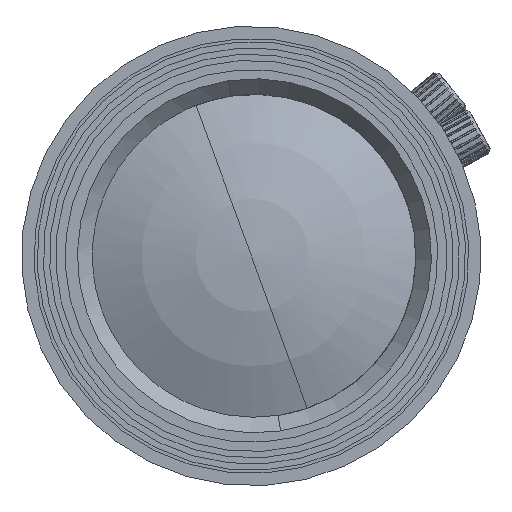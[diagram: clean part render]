
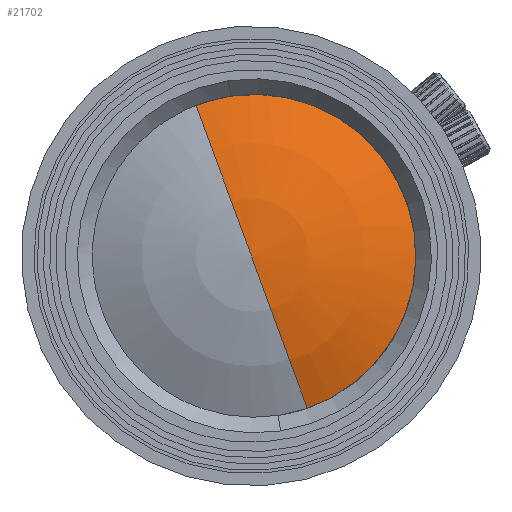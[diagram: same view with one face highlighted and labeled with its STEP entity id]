
A CAD part, left-side view. The second image highlights one B-rep face of the part: STEP entity #21702.
In plain terms, the highlighted spherical face has radius 30.475 mm.
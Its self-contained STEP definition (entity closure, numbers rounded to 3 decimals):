
#280 = DIRECTION ( 'NONE',  ( 0., -0.344, -0.939 ) ) ;
#893 = CARTESIAN_POINT ( 'NONE',  ( -43.593, 0., 0. ) ) ;
#919 = CARTESIAN_POINT ( 'NONE',  ( -43.593, 0., 0. ) ) ;
#970 = ORIENTED_EDGE ( 'NONE', *, *, #13007, .T. ) ;
#1292 = CARTESIAN_POINT ( 'NONE',  ( -43.642, -6.078, 11.627 ) ) ;
#1520 = CARTESIAN_POINT ( 'NONE',  ( -43.686, -1.096, 12.983 ) ) ;
#1742 = CARTESIAN_POINT ( 'NONE',  ( -43.653, -4.805, 12.184 ) ) ;
#2142 = CARTESIAN_POINT ( 'NONE',  ( -43.485, 0., 0. ) ) ;
#2190 = CARTESIAN_POINT ( 'NONE',  ( -43.593, -12., 5.543 ) ) ;
#2743 = FACE_OUTER_BOUND ( 'NONE', #21254, .T. ) ;
#2975 = VERTEX_POINT ( 'NONE', #17679 ) ;
#4414 = CARTESIAN_POINT ( 'NONE',  ( -43.593, -12., 5.543 ) ) ;
#4430 = DIRECTION ( 'NONE',  ( 0., 1., 0. ) ) ;
#4558 = CIRCLE ( 'NONE', #37855, 13.219 ) ;
#4832 = CARTESIAN_POINT ( 'NONE',  ( -43.676, -2.136, 12.872 ) ) ;
#5152 = EDGE_CURVE ( 'NONE', #6072, #29815, #37585, .T. ) ;
#5235 = DIRECTION ( 'NONE',  ( -1., 0., 0. ) ) ;
#5280 = CARTESIAN_POINT ( 'NONE',  ( -43.62, -8.664, 9.914 ) ) ;
#5398 = CARTESIAN_POINT ( 'NONE',  ( -16.134, 0., 0. ) ) ;
#6072 = VERTEX_POINT ( 'NONE', #36649 ) ;
#6171 = ORIENTED_EDGE ( 'NONE', *, *, #42916, .T. ) ;
#6248 = VERTEX_POINT ( 'NONE', #38176 ) ;
#7997 = CIRCLE ( 'NONE', #43360, 13.439 ) ;
#8012 = DIRECTION ( 'NONE',  ( -1., 0., 0. ) ) ;
#8424 = EDGE_CURVE ( 'NONE', #38591, #2975, #25662, .T. ) ;
#9146 = CARTESIAN_POINT ( 'NONE',  ( -43.719, 2.625, 12.722 ) ) ;
#9296 = CARTESIAN_POINT ( 'NONE',  ( -43.636, -7.969, -10.444 ) ) ;
#11516 = CARTESIAN_POINT ( 'NONE',  ( -43.668, -3.161, 12.693 ) ) ;
#11733 = CARTESIAN_POINT ( 'NONE',  ( -43.689, -0.749, 13.001 ) ) ;
#11892 = VERTEX_POINT ( 'NONE', #36837 ) ;
#11963 = CARTESIAN_POINT ( 'NONE',  ( -43.616, -10.118, -8.445 ) ) ;
#12370 = ORIENTED_EDGE ( 'NONE', *, *, #5152, .T. ) ;
#12713 = CARTESIAN_POINT ( 'NONE',  ( -43.735, 4.449, 12.129 ) ) ;
#12864 = CARTESIAN_POINT ( 'NONE',  ( -43.593, -12.536, -4.194 ) ) ;
#13007 = EDGE_CURVE ( 'NONE', #2975, #6248, #40080, .T. ) ;
#13659 = CARTESIAN_POINT ( 'NONE',  ( -16.134, 0., 0. ) ) ;
#14246 = DIRECTION ( 'NONE',  ( 0., -0.939, 0.344 ) ) ;
#14547 = CIRCLE ( 'NONE', #28652, 30.475 ) ;
#14835 = CARTESIAN_POINT ( 'NONE',  ( -43.645, -5.763, 11.78 ) ) ;
#15264 = CARTESIAN_POINT ( 'NONE',  ( -43.698, 0.289, 13.013 ) ) ;
#15709 = CARTESIAN_POINT ( 'NONE',  ( -43.598, -11.36, 6.775 ) ) ;
#16947 = ORIENTED_EDGE ( 'NONE', *, *, #8424, .T. ) ;
#17438 = AXIS2_PLACEMENT_3D ( 'NONE', #13659, #31354, #27148 ) ;
#17679 = CARTESIAN_POINT ( 'NONE',  ( -43.71, 1.672, 12.864 ) ) ;
#18170 = CARTESIAN_POINT ( 'NONE',  ( -43.604, -10.582, 7.912 ) ) ;
#18843 = CARTESIAN_POINT ( 'NONE',  ( -43.596, -12.215, -5.132 ) ) ;
#18940 = DIRECTION ( 'NONE',  ( 1., 0., 0. ) ) ;
#19502 = CARTESIAN_POINT ( 'NONE',  ( -43.64, -7.566, -10.731 ) ) ;
#19720 = CARTESIAN_POINT ( 'NONE',  ( -43.61, -10.733, -7.669 ) ) ;
#21241 = AXIS2_PLACEMENT_3D ( 'NONE', #919, #8012, #35046 ) ;
#21254 = EDGE_LOOP ( 'NONE', ( #6171, #12370, #35307, #25758, #23861, #36205, #26828, #16947, #970 ) ) ;
#21693 = CARTESIAN_POINT ( 'NONE',  ( -43.629, -7.577, 10.761 ) ) ;
#21702 = ADVANCED_FACE ( 'NONE', ( #2743 ), #42619, .T. ) ;
#22343 = CARTESIAN_POINT ( 'NONE',  ( -43.485, 4.628, 12.617 ) ) ;
#22373 = CARTESIAN_POINT ( 'NONE',  ( -43.608, -11.017, -7.265 ) ) ;
#22818 = CARTESIAN_POINT ( 'NONE',  ( -43.626, -9.099, -9.506 ) ) ;
#23372 = AXIS2_PLACEMENT_3D ( 'NONE', #5398, #18940, #30655 ) ;
#23861 = ORIENTED_EDGE ( 'NONE', *, *, #24457, .T. ) ;
#24457 = EDGE_CURVE ( 'NONE', #11892, #26313, #7997, .T. ) ;
#25229 = CARTESIAN_POINT ( 'NONE',  ( -43.704, 0.981, 12.967 ) ) ;
#25286 = DIRECTION ( 'NONE',  ( 0., 0.939, -0.344 ) ) ;
#25337 = CARTESIAN_POINT ( 'NONE',  ( -43.593, 4.552, 12.41 ) ) ;
#25662 = B_SPLINE_CURVE_WITH_KNOTS ( 'NONE', 3,
 ( #2190, #35199, #15709, #18170, #38956, #42056, #31666, #5280, #34990, #21693, #28545, #1292, #14835, #28332, #1742, #41843, #11516, #4832, #31887, #1520, #11733, #15264, #25229, #38734 ),
 .UNSPECIFIED., .F., .F.,
 ( 4, 2, 2, 2, 2, 2, 2, 2, 2, 2, 2, 4 ),
 ( 0., 0.002, 0.004, 0.005, 0.006, 0.008, 0.009, 0.01, 0.012, 0.013, 0.015, 0.017 ),
 .UNSPECIFIED. ) ;
#25758 = ORIENTED_EDGE ( 'NONE', *, *, #33197, .F. ) ;
#26137 = CARTESIAN_POINT ( 'NONE',  ( -43.659, -5.424, -11.942 ) ) ;
#26167 = CIRCLE ( 'NONE', #21241, 13.219 ) ;
#26313 = VERTEX_POINT ( 'NONE', #22343 ) ;
#26743 = CARTESIAN_POINT ( 'NONE',  ( -43.593, -12.536, -4.194 ) ) ;
#26828 = ORIENTED_EDGE ( 'NONE', *, *, #40523, .F. ) ;
#26953 = VERTEX_POINT ( 'NONE', #41291 ) ;
#27148 = DIRECTION ( 'NONE',  ( 0., -0.344, -0.939 ) ) ;
#27735 = CARTESIAN_POINT ( 'NONE',  ( -16.134, 0., 0. ) ) ;
#28050 = VERTEX_POINT ( 'NONE', #25337 ) ;
#28332 = CARTESIAN_POINT ( 'NONE',  ( -43.65, -5.127, 12.058 ) ) ;
#28545 = CARTESIAN_POINT ( 'NONE',  ( -43.634, -6.997, 11.134 ) ) ;
#28652 = AXIS2_PLACEMENT_3D ( 'NONE', #38792, #25286, #42110 ) ;
#29672 = CARTESIAN_POINT ( 'NONE',  ( -43.6, -11.794, -6.016 ) ) ;
#29815 = VERTEX_POINT ( 'NONE', #26743 ) ;
#30655 = DIRECTION ( 'NONE',  ( 0., -0.344, -0.939 ) ) ;
#31094 = AXIS2_PLACEMENT_3D ( 'NONE', #27735, #14246, #280 ) ;
#31354 = DIRECTION ( 'NONE',  ( 0., -0.939, 0.344 ) ) ;
#31666 = CARTESIAN_POINT ( 'NONE',  ( -43.616, -9.179, 9.451 ) ) ;
#31887 = CARTESIAN_POINT ( 'NONE',  ( -43.68, -1.789, 12.918 ) ) ;
#33197 = EDGE_CURVE ( 'NONE', #11892, #26953, #14547, .T. ) ;
#34331 = EDGE_CURVE ( 'NONE', #26953, #29815, #4558, .T. ) ;
#34990 = CARTESIAN_POINT ( 'NONE',  ( -43.622, -8.398, 10.134 ) ) ;
#35046 = DIRECTION ( 'NONE',  ( 0., 1., 0. ) ) ;
#35090 = CIRCLE ( 'NONE', #17438, 30.475 ) ;
#35199 = CARTESIAN_POINT ( 'NONE',  ( -43.595, -11.703, 6.175 ) ) ;
#35307 = ORIENTED_EDGE ( 'NONE', *, *, #34331, .F. ) ;
#35876 = CARTESIAN_POINT ( 'NONE',  ( -43.629, -8.735, -9.832 ) ) ;
#35948 = CARTESIAN_POINT ( 'NONE',  ( -43.71, 1.672, 12.864 ) ) ;
#36205 = ORIENTED_EDGE ( 'NONE', *, *, #36987, .T. ) ;
#36397 = CARTESIAN_POINT ( 'NONE',  ( -43.727, 3.551, 12.477 ) ) ;
#36649 = CARTESIAN_POINT ( 'NONE',  ( -43.668, -4.498, -12.263 ) ) ;
#36837 = CARTESIAN_POINT ( 'NONE',  ( -43.485, -4.628, -12.617 ) ) ;
#36987 = EDGE_CURVE ( 'NONE', #26313, #28050, #35090, .T. ) ;
#37585 = B_SPLINE_CURVE_WITH_KNOTS ( 'NONE', 3,
 ( #42957, #26137, #39639, #19502, #9296, #35876, #22818, #43186, #11963, #19720, #22373, #29672, #18843, #12864 ),
 .UNSPECIFIED., .F., .F.,
 ( 4, 2, 2, 2, 2, 2, 4 ),
 ( 0.001, 0.004, 0.006, 0.007, 0.009, 0.01, 0.013 ),
 .UNSPECIFIED. ) ;
#37855 = AXIS2_PLACEMENT_3D ( 'NONE', #893, #37899, #4430 ) ;
#37899 = DIRECTION ( 'NONE',  ( -1., 0., 0. ) ) ;
#38176 = CARTESIAN_POINT ( 'NONE',  ( -43.735, 4.449, 12.129 ) ) ;
#38180 = CIRCLE ( 'NONE', #31094, 30.475 ) ;
#38591 = VERTEX_POINT ( 'NONE', #4414 ) ;
#38734 = CARTESIAN_POINT ( 'NONE',  ( -43.71, 1.672, 12.864 ) ) ;
#38792 = CARTESIAN_POINT ( 'NONE',  ( -16.134, 0., 0. ) ) ;
#38910 = DIRECTION ( 'NONE',  ( 0., 0.344, 0.939 ) ) ;
#38956 = CARTESIAN_POINT ( 'NONE',  ( -43.608, -10.149, 8.45 ) ) ;
#39639 = CARTESIAN_POINT ( 'NONE',  ( -43.651, -6.308, -11.52 ) ) ;
#40080 = B_SPLINE_CURVE_WITH_KNOTS ( 'NONE', 3,
 ( #35948, #9146, #36397, #12713 ),
 .UNSPECIFIED., .F., .F.,
 ( 4, 4 ),
 ( 0., 0.003 ),
 .UNSPECIFIED. ) ;
#40523 = EDGE_CURVE ( 'NONE', #38591, #28050, #26167, .T. ) ;
#41291 = CARTESIAN_POINT ( 'NONE',  ( -43.593, -4.552, -12.41 ) ) ;
#41843 = CARTESIAN_POINT ( 'NONE',  ( -43.662, -3.828, 12.521 ) ) ;
#42056 = CARTESIAN_POINT ( 'NONE',  ( -43.614, -9.429, 9.208 ) ) ;
#42110 = DIRECTION ( 'NONE',  ( -1., 0., 0. ) ) ;
#42619 = SPHERICAL_SURFACE ( 'NONE', #23372, 30.475 ) ;
#42916 = EDGE_CURVE ( 'NONE', #6248, #6072, #38180, .T. ) ;
#42957 = CARTESIAN_POINT ( 'NONE',  ( -43.668, -4.498, -12.263 ) ) ;
#43186 = CARTESIAN_POINT ( 'NONE',  ( -43.619, -9.791, -8.813 ) ) ;
#43360 = AXIS2_PLACEMENT_3D ( 'NONE', #2142, #5235, #38910 ) ;
